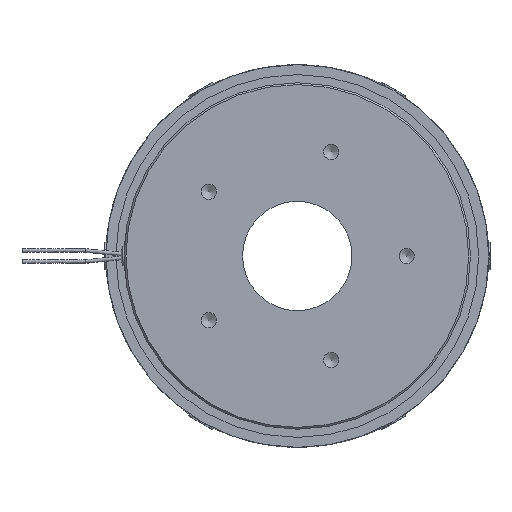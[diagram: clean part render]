
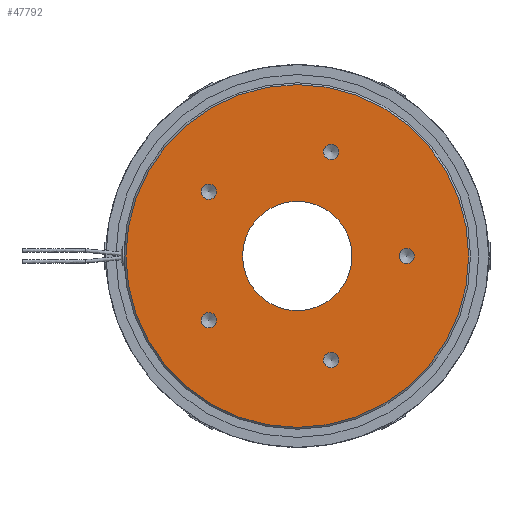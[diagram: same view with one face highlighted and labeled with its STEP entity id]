
A CAD part, left-side view. The second image highlights one B-rep face of the part: STEP entity #47792.
In plain terms, the highlighted planar face has unit normal (-1, 0, 0).
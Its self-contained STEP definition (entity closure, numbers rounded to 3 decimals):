
#249=FACE_BOUND('',#5493,.T.);
#250=FACE_BOUND('',#5494,.T.);
#251=FACE_BOUND('',#5495,.T.);
#252=FACE_BOUND('',#5496,.T.);
#253=FACE_BOUND('',#5497,.T.);
#254=FACE_BOUND('',#5498,.T.);
#775=PLANE('',#53943);
#3070=FACE_OUTER_BOUND('',#5492,.T.);
#5492=EDGE_LOOP('',(#41418));
#5493=EDGE_LOOP('',(#41419));
#5494=EDGE_LOOP('',(#41420));
#5495=EDGE_LOOP('',(#41421));
#5496=EDGE_LOOP('',(#41422));
#5497=EDGE_LOOP('',(#41423));
#5498=EDGE_LOOP('',(#41424));
#15513=CIRCLE('',#53939,94.);
#15516=CIRCLE('',#53944,30.);
#15517=CIRCLE('',#53945,4.188);
#15518=CIRCLE('',#53946,4.188);
#15519=CIRCLE('',#53947,4.188);
#15520=CIRCLE('',#53948,4.188);
#15521=CIRCLE('',#53949,4.188);
#20197=VERTEX_POINT('',#84149);
#20200=VERTEX_POINT('',#84161);
#20201=VERTEX_POINT('',#84163);
#20202=VERTEX_POINT('',#84165);
#20203=VERTEX_POINT('',#84167);
#20204=VERTEX_POINT('',#84169);
#20205=VERTEX_POINT('',#84171);
#27307=EDGE_CURVE('',#20197,#20197,#15513,.T.);
#27314=EDGE_CURVE('',#20200,#20200,#15516,.T.);
#27315=EDGE_CURVE('',#20201,#20201,#15517,.T.);
#27316=EDGE_CURVE('',#20202,#20202,#15518,.T.);
#27317=EDGE_CURVE('',#20203,#20203,#15519,.T.);
#27318=EDGE_CURVE('',#20204,#20204,#15520,.T.);
#27319=EDGE_CURVE('',#20205,#20205,#15521,.T.);
#41418=ORIENTED_EDGE('',*,*,#27307,.F.);
#41419=ORIENTED_EDGE('',*,*,#27314,.F.);
#41420=ORIENTED_EDGE('',*,*,#27315,.T.);
#41421=ORIENTED_EDGE('',*,*,#27316,.T.);
#41422=ORIENTED_EDGE('',*,*,#27317,.T.);
#41423=ORIENTED_EDGE('',*,*,#27318,.T.);
#41424=ORIENTED_EDGE('',*,*,#27319,.T.);
#47792=ADVANCED_FACE('',(#3070,#249,#250,#251,#252,#253,#254),#775,.T.);
#53939=AXIS2_PLACEMENT_3D('',#84150,#69160,#69161);
#53943=AXIS2_PLACEMENT_3D('',#84160,#69172,#69173);
#53944=AXIS2_PLACEMENT_3D('',#84162,#69174,#69175);
#53945=AXIS2_PLACEMENT_3D('',#84164,#69176,#69177);
#53946=AXIS2_PLACEMENT_3D('',#84166,#69178,#69179);
#53947=AXIS2_PLACEMENT_3D('',#84168,#69180,#69181);
#53948=AXIS2_PLACEMENT_3D('',#84170,#69182,#69183);
#53949=AXIS2_PLACEMENT_3D('',#84172,#69184,#69185);
#69160=DIRECTION('center_axis',(1.,0.,0.));
#69161=DIRECTION('ref_axis',(0.,-1.,0.));
#69172=DIRECTION('center_axis',(-1.,0.,0.));
#69173=DIRECTION('ref_axis',(0.,0.,1.));
#69174=DIRECTION('center_axis',(-1.,0.,0.));
#69175=DIRECTION('ref_axis',(0.,0.,1.));
#69176=DIRECTION('center_axis',(1.,0.,0.));
#69177=DIRECTION('ref_axis',(0.,0.,1.));
#69178=DIRECTION('center_axis',(1.,0.,0.));
#69179=DIRECTION('ref_axis',(0.,0.951,0.309));
#69180=DIRECTION('center_axis',(1.,0.,0.));
#69181=DIRECTION('ref_axis',(0.,0.588,-0.809));
#69182=DIRECTION('center_axis',(1.,0.,0.));
#69183=DIRECTION('ref_axis',(0.,-0.588,-0.809));
#69184=DIRECTION('center_axis',(1.,0.,0.));
#69185=DIRECTION('ref_axis',(0.,-0.951,0.309));
#84149=CARTESIAN_POINT('',(-21.,94.,0.));
#84150=CARTESIAN_POINT('Origin',(-21.,0.,
0.));
#84160=CARTESIAN_POINT('Origin',(-21.,30.,0.));
#84161=CARTESIAN_POINT('',(-21.,-30.,0.));
#84162=CARTESIAN_POINT('Origin',(-21.,0.,
0.));
#84163=CARTESIAN_POINT('',(-21.,-60.,-4.188));
#84164=CARTESIAN_POINT('Origin',(-21.,-60.,0.));
#84165=CARTESIAN_POINT('',(-21.,-22.524,55.769));
#84166=CARTESIAN_POINT('Origin',(-21.,-18.541,57.063));
#84167=CARTESIAN_POINT('',(-21.,46.079,38.655));
#84168=CARTESIAN_POINT('Origin',(-21.,48.541,35.267));
#84169=CARTESIAN_POINT('',(-21.,51.003,-31.879));
#84170=CARTESIAN_POINT('Origin',(-21.,48.541,-35.267));
#84171=CARTESIAN_POINT('',(-21.,-14.558,-58.358));
#84172=CARTESIAN_POINT('Origin',(-21.,-18.541,-57.063));
